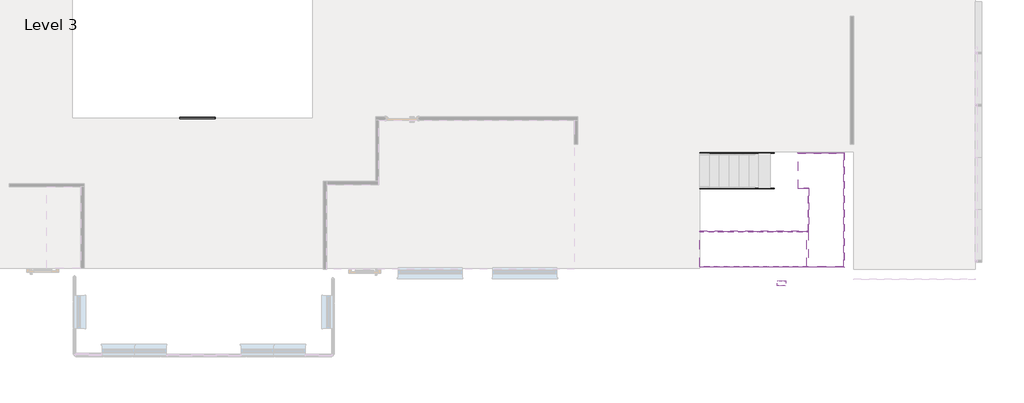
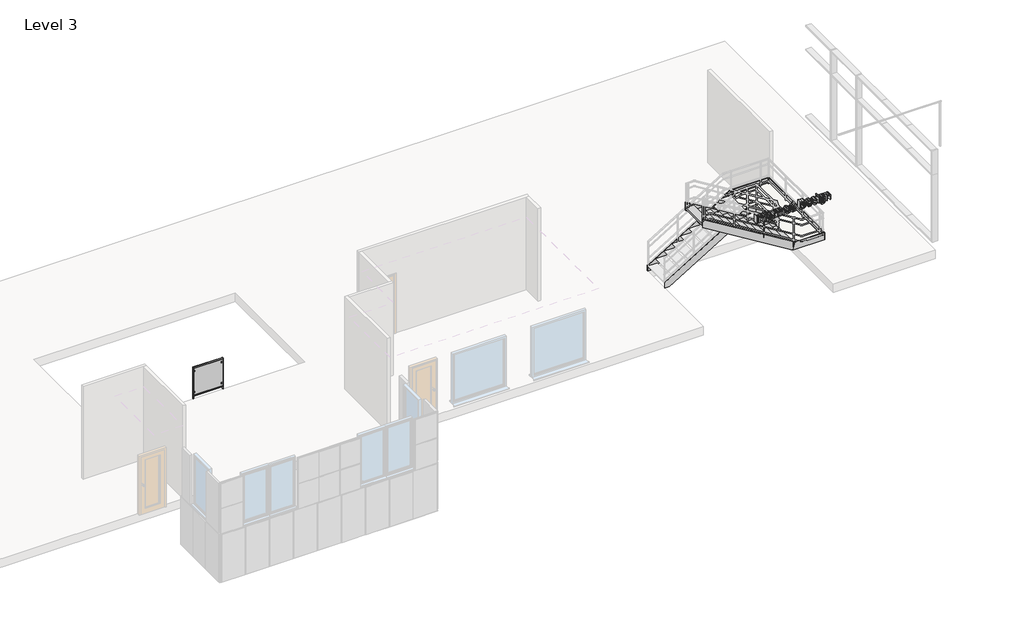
# One storey, part 7 of 7: 9 members, 1 proxy, 1 railing, 1 slab, 1 stair flight.
"""IFC4 building model written with IfcOpenShell, lengths in millimetres."""

from ifc_helpers import new_model, si_unit, point, frame, origin, place, context, project, spatial, polyline, ellipse_curve, trimmed, outline, extrude, faceted_brep, transform, mapped, element, save
from ifc_brep_helpers import plane_surface, extruded_surface, advanced_brep
from components import non_monolithic_landing_bf5c9b89, concrete_steps_w_40mm_tread_40mm_nosing_01273eb4

model = new_model("IFC4")

# Units and contexts
model_context = context("Model", 3, world=origin())
ifc_project = project(units=[si_unit("LENGTHUNIT", "METRE", prefix="MILLI")], contexts=[model_context])

# Site, building, storey
site = spatial("IfcSite", under=ifc_project)
building = spatial("IfcBuilding", under=site)
storey = spatial("IfcBuildingStorey", under=building, Name="Level 3", Elevation=11000.0)

# Proxy
placement = place(None, origin())
element("IfcBuildingElementProxy", 1, Name="250", ObjectType="250", at=placement, inside=storey, context=model_context, shape_type="SweptSolid", body=[
    extrude(outline(polyline([(36823.579935, -3760.0053409), (36792.187338, -3760.0053409), (36792.187338, -3610.0053409), (36823.579935, -3610.0053409), (36823.579935, -3760.0053409)])), frame((0.0, 0.0, 14434.5245182), z_axis=(0.0, 0.0, 1.0), x_axis=(1.0, 0.0, 0.0)), (0.0, 0.0, 1.0), 251.1407754),
    extrude(outline(polyline([(14434.5245182, 36882.4410542), (14434.5245182, 36913.8336511), (14532.3811289, 36913.8336511), (14561.3058507, 36917.4128363), (14579.1634559, 36928.1503921), (14588.4064911, 36943.8236979), (14591.4875028, 36962.2101335), (14585.9999297, 36983.761887), (14579.5849874, 36991.5410584), (14571.3153067, 36996.5457864), (14543.5402161, 37000.1632926), (14434.5245182, 37000.1632926), (14434.5245182, 37031.5558896), (14547.770859, 37031.5558896), (14578.1211236, 37029.9004206), (14601.2057188, 37020.4887729), (14609.9889014, 37012.0734722), (14616.9020173, 37000.2552631), (14621.3855791, 36986.0841421), (14622.8800997, 36970.6101057), (14621.0253613, 36953.1280467), (14615.4611461, 36937.8379513), (14606.1874542, 36924.7398194), (14593.2042854, 36913.8336511), (14618.9560251, 36913.8336511), (14618.9560251, 36882.4410542), (14434.5245182, 36882.4410542)])), frame((0.0, -3760.0053409, 0.0), z_axis=(0.0, 1.0, 0.0), x_axis=(0.0, 0.0, 1.0)), (0.0, 0.0, 1.0), 150.0),
    extrude(outline(polyline([(14434.5245182, 37082.5688596), (14434.5245182, 37113.9614565), (14587.5634281, 37113.9614565), (14587.5634281, 37149.278128), (14618.9560251, 37149.278128), (14618.9560251, 37113.9614565), (14633.5486775, 37113.9614565), (14645.5201708, 37115.4099918), (14652.9851096, 37119.7555979), (14656.8938558, 37127.5960829), (14658.1967712, 37139.5292551), (14656.7252432, 37157.6167866), (14686.1558029, 37162.2153115), (14689.5893681, 37133.5818296), (14687.7959434, 37115.5862686), (14682.4156692, 37101.943978), (14674.1536528, 37092.1951051), (14663.7150012, 37085.8797975), (14637.5340658, 37082.5688596), (14618.9560251, 37082.5688596), (14618.9560251, 37055.1003372), (14587.5634281, 37055.1003372), (14587.5634281, 37082.5688596), (14434.5245182, 37082.5688596)])), frame((0.0, -3760.0053409, 0.0), z_axis=(0.0, 1.0, 0.0), x_axis=(0.0, 0.0, 1.0)), (0.0, 0.0, 1.0), 150.0),
    extrude(outline(polyline([(14526.7402716, 37168.8985011), (14504.8053077, 37170.3221278), (14485.5988018, 37174.5930078), (14469.1207541, 37181.7111412), (14455.3711645, 37191.676528), (14444.5339741, 37203.9488414), (14436.7931238, 37217.9877548), (14432.1486136, 37233.7932683), (14430.6004435, 37251.3653817), (14433.413208, 37273.5226077), (14441.8515012, 37293.886409), (14455.3788288, 37311.0312428), (14473.458696, 37323.5315664), (14497.6009519, 37331.1651178), (14529.3154456, 37333.7096349), (14550.0490449, 37332.2706798), (14568.4105718, 37327.9538145), (14584.4000262, 37320.7590391), (14598.0174082, 37310.6863534), (14608.8948357, 37298.3450621), (14616.6644268, 37284.3444697), (14621.3261815, 37268.6845762), (14622.8800997, 37251.3653817), (14617.775737, 37221.2297149), (14602.462649, 37196.0604551), (14588.4869652, 37184.1771002), (14571.2080078, 37175.6889896), (14550.6257766, 37170.5961232), (14526.7402716, 37168.8985011)]), holes=[polyline([(14526.8015853, 37200.291098), (14555.1974768, 37203.9239327), (14575.3926655, 37214.8224368), (14587.4637934, 37231.2238424), (14591.4875028, 37251.3653817), (14587.448465, 37271.2999873), (14575.3313518, 37287.6937287), (14555.3660894, 37298.6612107), (14527.7826039, 37302.317038), (14498.7505831, 37298.6842033), (14478.2411619, 37287.7856992), (14466.0550708, 37271.4149504), (14461.9930405, 37251.3653817), (14466.0320782, 37231.2238424), (14478.1491914, 37214.8224368), (14498.3903654, 37203.9239327), (14526.8015853, 37200.291098)])]), frame((0.0, -3760.0053409, 0.0), z_axis=(0.0, 1.0, 0.0), x_axis=(0.0, 0.0, 1.0)), (0.0, 0.0, 1.0), 150.0),
    extrude(outline(polyline([(14434.5245182, 37369.0263065), (14434.5245182, 37400.4189034), (14531.4614239, 37400.4189034), (14568.1269961, 37405.5079377), (14585.2948225, 37416.820309), (14589.9393327, 37425.1972886), (14591.4875028, 37434.5706153), (14585.0495678, 37456.643535), (14613.1925405, 37467.1281718), (14620.4582099, 37451.2479324), (14622.8800997, 37435.6129476), (14616.8100468, 37415.9925745), (14607.4903696, 37406.6422405), (14591.6714438, 37396.4948288), (14618.9560251, 37396.4948288), (14618.9560251, 37369.0263065), (14434.5245182, 37369.0263065)])), frame((0.0, -3760.0053409, 0.0), z_axis=(0.0, 1.0, 0.0), x_axis=(0.0, 0.0, 1.0)), (0.0, 0.0, 1.0), 150.0),
    extrude(outline(polyline([(14434.5245182, 37486.7485449), (14434.5245182, 37518.1411418), (14527.5373493, 37518.1411418), (14564.9999991, 37522.9236078), (14576.4349978, 37529.1776017), (14584.7429995, 37538.3746516), (14589.801377, 37549.5184104), (14591.4875028, 37561.6125309), (14588.958314, 37575.8449656), (14581.3707479, 37585.4328901), (14568.7094759, 37590.8821422), (14550.9591696, 37592.6985595), (14434.5245182, 37592.6985595), (14434.5245182, 37624.0911565), (14538.6351228, 37624.0911565), (14562.5627809, 37627.164504), (14578.9182013, 37636.3845465), (14588.3451774, 37650.2490992), (14591.4875028, 37667.2559772), (14586.5824095, 37685.1902245), (14573.6758828, 37695.736175), (14547.4642907, 37698.6485741), (14434.5245182, 37698.6485741), (14434.5245182, 37730.0411711), (14560.9532972, 37730.0411711), (14588.4294837, 37726.4466574), (14607.7049674, 37715.6631164), (14619.0863166, 37698.2117143), (14622.8800997, 37674.6136171), (14620.5999977, 37658.342503), (14613.7596919, 37643.6808727), (14602.3591821, 37630.6287261), (14586.3984685, 37619.1860632), (14601.765206, 37612.3495894), (14613.284511, 37601.8956094), (14620.4812025, 37587.9007652), (14622.8800997, 37570.4416988), (14620.5271878, 37554.1475921), (14613.468452, 37539.7235522), (14602.5469552, 37527.5834464), (14588.6057605, 37518.1411418), (14618.9560251, 37518.1411418), (14618.9560251, 37486.7485449), (14434.5245182, 37486.7485449)])), frame((0.0, -3760.0053409, 0.0), z_axis=(0.0, 1.0, 0.0), x_axis=(0.0, 0.0, 1.0)), (0.0, 0.0, 1.0), 150.0),
    extrude(outline(polyline([(14489.4615628, 37906.2566468), (14477.0608738, 37897.4581357), (14468.5536027, 37886.023137), (14463.633181, 37871.9516507), (14461.9930405, 37855.2436768), (14465.5339047, 37833.0251371), (14476.1564973, 37814.8073141), (14493.4316226, 37802.1843632), (14516.9300851, 37796.7504395), (14516.9300851, 37937.8331847), (14525.391371, 37938.0171257), (14547.2688534, 37936.5283532), (14566.5481692, 37932.0620359), (14583.2293184, 37924.6181736), (14597.312301, 37914.1967665), (14608.4982129, 37901.4301116), (14616.48815, 37886.9505062), (14621.2821123, 37870.7579503), (14622.8800997, 37852.8524438), (14621.2782802, 37834.3510451), (14616.4728216, 37817.6583996), (14608.463724, 37802.7745072), (14597.2509874, 37789.699368), (14583.1373479, 37779.0499506), (14566.4255418, 37771.4432239), (14547.1155692, 37766.8791879), (14525.20743, 37765.3578426), (14504.0178103, 37766.8638595), (14485.3305545, 37771.3819103), (14469.1456628, 37778.9119949), (14455.463135, 37789.4541133), (14444.5857075, 37802.5637415), (14436.8161164, 37817.7963553), (14432.1543618, 37835.1519549), (14430.6004435, 37854.6305401), (14434.2026214, 37884.3446754), (14445.009155, 37908.2493409), (14462.345594, 37925.9459977), (14485.5374882, 37937.036107), (14489.4615628, 37906.2566468)]), holes=[polyline([(14548.322682, 37796.7504395), (14566.0193388, 37801.9084517), (14579.7459358, 37814.0715501), (14588.552111, 37831.5689375), (14591.4875028, 37852.7298165), (14587.8086828, 37875.753098), (14576.772223, 37894.0552273), (14564.9080286, 37902.3785574), (14548.322682, 37906.6245288), (14548.322682, 37796.7504395)])]), frame((0.0, -3760.0053409, 0.0), z_axis=(0.0, 1.0, 0.0), x_axis=(0.0, 0.0, 1.0)), (0.0, 0.0, 1.0), 150.0),
    extrude(outline(polyline([(14434.5245182, 38083.2078864), (14434.5245182, 38114.6004834), (14685.6652935, 38114.6004834), (14685.6652935, 38083.2078864), (14592.1006394, 38083.2078864), (14604.4936641, 38074.0568218), (14614.3268433, 38062.545181), (14620.7417856, 38048.9642041), (14622.8800997, 38033.6051308), (14619.8910585, 38012.5208939), (14610.9239348, 37993.5366501), (14596.3466108, 37977.8403517), (14576.5269683, 37966.6199508), (14552.813908, 37959.8831118), (14526.5563306, 37957.6374987), (14499.9691923, 37960.074717), (14476.6163498, 37967.3863716), (14457.2795524, 37979.1279386), (14442.7405494, 37994.8548939), (14433.63547, 38013.4329347), (14430.6004435, 38033.7277581), (14432.6966045, 38049.0753351), (14438.9850873, 38062.4378821), (14449.4658921, 38073.8153992), (14464.1390188, 38083.2078864), (14434.5245182, 38083.2078864)]), holes=[polyline([(14526.6789579, 37989.0300957), (14555.7799566, 37992.3410336), (14575.8831748, 38002.2738475), (14587.5864208, 38017.1577399), (14591.4875028, 38035.3219134), (14587.4254724, 38053.9536036), (14575.2393813, 38069.3816548), (14554.3774065, 38079.7513285), (14524.287725, 38083.2078864), (14496.7655532, 38079.8126422), (14477.3521138, 38069.6269094), (14465.8328088, 38054.5820687), (14461.9930405, 38036.6095004), (14466.0167498, 38018.6292679), (14478.0878778, 38003.1935525), (14498.2830664, 37992.5709599), (14526.6789579, 37989.0300957)])]), frame((0.0, -3760.0053409, 0.0), z_axis=(0.0, 1.0, 0.0), x_axis=(0.0, 0.0, 1.0)), (0.0, 0.0, 1.0), 150.0),
    extrude(outline(polyline([(14434.5245182, 38263.7153187), (14434.5245182, 38354.5208579), (14438.8164748, 38394.8959069), (14451.4164331, 38424.9089463), (14474.19446, 38447.8402573), (14490.572873, 38457.3745324), (14510.7680617, 38465.0080838), (14534.4887861, 38470.0204759), (14561.4438065, 38471.6912733), (14593.1736286, 38469.2233983), (14621.163317, 38461.8197731), (14644.9530194, 38449.4497411), (14664.0828831, 38432.0826452), (14675.0733578, 38415.1907303), (14682.0477872, 38395.1718183), (14685.6652935, 38350.3515286), (14685.6652935, 38263.7153187), (14434.5245182, 38263.7153187)]), holes=[polyline([(14465.9171151, 38295.1079157), (14654.2726966, 38295.1079157), (14654.2726966, 38349.7997056), (14653.0157665, 38376.2565524), (14649.244976, 38394.313427), (14638.7603391, 38412.0560691), (14621.4085717, 38426.9016404), (14596.1473414, 38436.9494174), (14561.9343158, 38440.2986764), (14536.1135983, 38438.589558), (14514.4468816, 38433.4622027), (14496.8575237, 38425.2691641), (14483.2688825, 38414.3629958), (14470.4543264, 38391.0638027), (14465.9171151, 38350.6580969), (14465.9171151, 38295.1079157)])]), frame((0.0, -3760.0053409, 0.0), z_axis=(0.0, 1.0, 0.0), x_axis=(0.0, 0.0, 1.0)), (0.0, 0.0, 1.0), 150.0),
    extrude(outline(polyline([(14489.4615628, 38640.0585998), (14477.0608738, 38631.2600888), (14468.5536027, 38619.8250901), (14463.633181, 38605.7536038), (14461.9930405, 38589.0456298), (14465.5339047, 38566.8270901), (14476.1564973, 38548.6092672), (14493.4316226, 38535.9863162), (14516.9300851, 38530.5523926), (14516.9300851, 38671.6351377), (14525.391371, 38671.8190787), (14547.2688534, 38670.3303063), (14566.5481692, 38665.8639889), (14583.2293184, 38658.4201267), (14597.312301, 38647.9987195), (14608.4982129, 38635.2320647), (14616.48815, 38620.7524593), (14621.2821123, 38604.5599033), (14622.8800997, 38586.6543968), (14621.2782802, 38568.1529982), (14616.4728216, 38551.4603526), (14608.463724, 38536.5764602), (14597.2509874, 38523.501321), (14583.1373479, 38512.8519037), (14566.4255418, 38505.245177), (14547.1155692, 38500.681141), (14525.20743, 38499.1597957), (14504.0178103, 38500.6658126), (14485.3305545, 38505.1838633), (14469.1456628, 38512.7139479), (14455.463135, 38523.2560663), (14444.5857075, 38536.3656945), (14436.8161164, 38551.5983084), (14432.1543618, 38568.9539079), (14430.6004435, 38588.4324931), (14434.2026214, 38618.1466285), (14445.009155, 38642.0512939), (14462.345594, 38659.7479508), (14485.5374882, 38670.8380601), (14489.4615628, 38640.0585998)]), holes=[polyline([(14548.322682, 38530.5523926), (14566.0193388, 38535.7104047), (14579.7459358, 38547.8735032), (14588.552111, 38565.3708906), (14591.4875028, 38586.5317695), (14587.8086828, 38609.555051), (14576.772223, 38627.8571803), (14564.9080286, 38636.1805104), (14548.322682, 38640.4264818), (14548.322682, 38530.5523926)])]), frame((0.0, -3760.0053409, 0.0), z_axis=(0.0, 1.0, 0.0), x_axis=(0.0, 0.0, 1.0)), (0.0, 0.0, 1.0), 150.0),
    extrude(outline(polyline([(14489.4615628, 38691.4394518), (14463.8631073, 38700.0540218), (14445.4383507, 38715.4744088), (14434.3099203, 38738.5743324), (14430.6004435, 38770.2275124), (14432.5241598, 38790.7982473), (14438.2953086, 38809.1003766), (14447.5919932, 38824.2525163), (14460.0923168, 38835.3732824), (14474.6543125, 38842.2020919), (14490.1360131, 38844.4783618), (14505.111876, 38842.5393171), (14517.4205944, 38836.7221831), (14527.0928252, 38827.4944763), (14534.1592252, 38815.3237137), (14548.9358187, 38769.2464938), (14555.6190082, 38742.2071671), (14562.5474525, 38730.496257), (14571.6831887, 38726.7561233), (14579.1021423, 38729.0094006), (14585.5400772, 38735.7692322), (14590.0006464, 38747.7867107), (14591.4875028, 38765.8129285), (14589.9316685, 38781.6395185), (14585.2641657, 38793.434735), (14577.8222195, 38801.27522), (14567.9430551, 38805.2376156), (14571.8671297, 38836.6302126), (14587.7397049, 38832.4608833), (14600.0407592, 38825.8390074), (14609.4677353, 38815.8448798), (14616.7180763, 38801.5587957), (14621.3395938, 38783.793161), (14622.8800997, 38763.3603819), (14619.0479956, 38736.351712), (14609.7589752, 38716.3941138), (14591.8860416, 38701.0043837), (14568.4948781, 38695.3635264), (14555.2357978, 38697.1186301), (14543.1723341, 38702.3839412), (14532.9559445, 38711.0521607), (14525.2380868, 38723.0159897), (14509.8790135, 38770.2888261), (14500.9272183, 38802.601128), (14494.8265085, 38810.4646057), (14486.8250751, 38813.0857649), (14477.4747411, 38810.4799341), (14469.411994, 38802.6624417), (14463.8477789, 38789.4493467), (14461.9930405, 38770.6567081), (14464.0163914, 38751.6341433), (14470.0864444, 38737.3633875), (14479.9579446, 38727.7831272), (14493.3856374, 38722.8320487), (14489.4615628, 38691.4394518)])), frame((0.0, -3760.0053409, 0.0), z_axis=(0.0, 1.0, 0.0), x_axis=(0.0, 0.0, 1.0)), (0.0, 0.0, 1.0), 150.0),
    extrude(outline(polyline([(38911.1876302, -3760.0053409), (38879.7950333, -3760.0053409), (38879.7950333, -3610.0053409), (38911.1876302, -3610.0053409), (38911.1876302, -3760.0053409)])), frame((0.0, 0.0, 14654.2726966), z_axis=(0.0, 0.0, 1.0), x_axis=(1.0, 0.0, 0.0)), (0.0, 0.0, 1.0), 31.3925969),
    extrude(outline(polyline([(38911.1876302, -3760.0053409), (38879.7950333, -3760.0053409), (38879.7950333, -3610.0053409), (38911.1876302, -3610.0053409), (38911.1876302, -3760.0053409)])), frame((0.0, 0.0, 14434.5245182), z_axis=(0.0, 0.0, 1.0), x_axis=(1.0, 0.0, 0.0)), (0.0, 0.0, 1.0), 184.4315069),
    extrude(outline(polyline([(14418.8282197, 38950.4283764), (14393.038159, 38954.8966098), (14374.6517234, 38969.6502106), (14363.6382562, 38992.6504996), (14359.9671005, 39021.8587971), (14362.5729313, 39046.9284223), (14370.3904237, 39067.6907624), (14382.6914779, 39083.7932639), (14398.7479941, 39094.8833732), (14422.9592279, 39101.3213081), (14459.7244348, 39103.4672864), (14618.9560251, 39103.4672864), (14618.9560251, 39072.0746895), (14595.4115774, 39072.0746895), (14607.4290559, 39061.4635932), (14616.0129691, 39049.495932), (14621.163317, 39036.171706), (14622.8800997, 39021.4909151), (14619.8450732, 38999.992811), (14610.7399938, 38981.4837482), (14596.0630351, 38966.4772284), (14576.3123705, 38955.4867538), (14553.0055132, 38948.7499148), (14527.6599766, 38946.5043018), (14492.0673936, 38951.5090298), (14461.9317268, 38966.5232137), (14449.941073, 38977.5615896), (14441.3763203, 38990.6578054), (14436.2374687, 39005.8118611), (14434.5245182, 39023.0237568), (14440.4106301, 39049.9711129), (14458.0689658, 39072.0746895), (14421.4647073, 39069.9287112), (14408.7727785, 39064.1039129), (14399.2691603, 39054.6002947), (14393.3370631, 39040.8966904), (14391.3596974, 39022.4719338), (14393.1071369, 39005.1968084), (14398.3494553, 38991.9990419), (14405.0939585, 38985.2851954), (14414.9041451, 38981.8209733), (14418.8282197, 38950.4283764)]), holes=[polyline([(14529.8059549, 38977.8968987), (14556.6383479, 38981.292143), (14575.9444885, 38991.4778757), (14587.6017492, 39006.507388), (14591.4875028, 39024.4339711), (14587.5404355, 39042.6901151), (14575.6992338, 39058.0951737), (14556.1018534, 39068.5798105), (14528.8862499, 39072.0746895), (14500.6666352, 39068.6794452), (14481.1229042, 39058.4937125), (14469.7185624, 39043.310916), (14465.9171151, 39024.9244804), (14469.741555, 39006.4000891), (14481.2148747, 38991.2939347), (14501.0115246, 38981.2461577), (14529.8059549, 38977.8968987)])]), frame((0.0, -3760.0053409, 0.0), z_axis=(0.0, 1.0, 0.0), x_axis=(0.0, 0.0, 1.0)), (0.0, 0.0, 1.0), 150.0),
    extrude(outline(polyline([(14434.5245182, 39150.5561818), (14434.5245182, 39181.9487787), (14532.3811289, 39181.9487787), (14561.3058507, 39185.5279639), (14579.1634559, 39196.2655197), (14588.4064911, 39211.9388255), (14591.4875028, 39230.3252611), (14585.9999297, 39251.8770146), (14579.5849874, 39259.656186), (14571.3153067, 39264.6609139), (14543.5402161, 39268.2784202), (14434.5245182, 39268.2784202), (14434.5245182, 39299.6710172), (14547.770859, 39299.6710172), (14578.1211236, 39298.0155482), (14601.2057188, 39288.6039005), (14609.9889014, 39280.1885998), (14616.9020173, 39268.3703907), (14621.3855791, 39254.1992697), (14622.8800997, 39238.7252333), (14621.0253613, 39221.2431743), (14615.4611461, 39205.9530789), (14606.1874542, 39192.854947), (14593.2042854, 39181.9487787), (14618.9560251, 39181.9487787), (14618.9560251, 39150.5561818), (14434.5245182, 39150.5561818)])), frame((0.0, -3760.0053409, 0.0), z_axis=(0.0, 1.0, 0.0), x_axis=(0.0, 0.0, 1.0)), (0.0, 0.0, 1.0), 150.0),
])

# Members
element("IfcMember", 2, ObjectType="Stringer-Paint-15mm_Width", at=placement, inside=storey, context=model_context, shape_type="SweptSolid", body=[
    extrude(outline(polyline([(11199.3311057, 35285.7942367), (11000.0, 35285.7942367), (11000.0, 35439.0061781), (12649.2857143, 38132.8395114), (12899.2857143, 38062.386764), (11199.3311057, 35285.7942367)])), frame((0.0, 1.8025492, 0.0), z_axis=(0.0, 1.0, 0.0), x_axis=(0.0, 0.0, 1.0)), (0.0, 0.0, 1.0), 15.0),
])
element("IfcMember", 3, ObjectType="Stringer-Paint-15mm_Width", at=placement, inside=storey, context=model_context, shape_type="SweptSolid", body=[
    extrude(outline(polyline([(11199.3311057, 35285.7942367), (11000.0, 35285.7942367), (11000.0, 35439.0061781), (12649.2857143, 38132.8395114), (12899.2857143, 38062.386764), (11199.3311057, 35285.7942367)])), frame((0.0, -1013.1974508, 0.0), z_axis=(0.0, 1.0, 0.0), x_axis=(0.0, 0.0, 1.0)), (0.0, 0.0, 1.0), 15.0),
])
element("IfcMember", 4, ObjectType="Stringer-Paint-15mm_Width", at=placement, inside=storey, context=model_context, shape_type="SweptSolid", body=[
    extrude(outline(polyline([(12649.2857143, 38318.7489619), (12899.2857143, 38389.2017093), (14799.3311057, 35285.7942367), (14506.1967706, 35285.7942367), (12649.2857143, 38318.7489619)])), frame((0.0, -3235.0053409, 0.0), z_axis=(0.0, 1.0, 0.0), x_axis=(0.0, 0.0, 1.0)), (0.0, 0.0, 1.0), 15.0),
])
element("IfcMember", 5, ObjectType="Stringer-Paint-15mm_Width", at=placement, inside=storey, context=model_context, shape_type="SweptSolid", body=[
    extrude(outline(polyline([(12649.2857143, 38361.9511446), (12915.9697335, 38361.9511446), (14799.3311057, 35285.7942367), (14506.1967706, 35285.7942367), (12649.2857143, 38318.7489619), (12649.2857143, 38361.9511446)])), frame((0.0, -2220.0053409, 0.0), z_axis=(0.0, 1.0, 0.0), x_axis=(0.0, 0.0, 1.0)), (0.0, 0.0, 1.0), 15.0),
])
element("IfcMember", 6, ObjectType="Stringer-Paint-15mm_Width", at=placement, inside=storey, context=model_context, shape_type="Brep", body=[
    faceted_brep([(38389.2017093, -3220.0053409, 12899.2857143), (38389.2017093, -3235.0053409, 12899.2857143), (39391.9511446, -3235.0053409, 12899.2857143), (39376.9511446, -3220.0053409, 12899.2857143), (38318.7489619, -3220.0053409, 12649.2857143), (39376.9511446, -3220.0053409, 12649.2857143), (38318.7489619, -3235.0053409, 12649.2857143), (39391.9511446, -3235.0053409, 12649.2857143)], [[[0, 1, 2, 3]], [[4, 0, 3, 5]], [[6, 4, 5, 7]], [[1, 6, 7, 2]], [[1, 0, 4, 6]], [[2, 7, 5, 3]]]),
])
element("IfcMember", 7, ObjectType="Stringer-Paint-15mm_Width", at=placement, inside=storey, context=model_context, shape_type="SweptSolid", body=[
    extrude(outline(polyline([(39391.9511446, -3235.0053409), (39376.9511446, -3220.0053409), (39376.9511446, 1.8025492), (39391.9511446, 16.8025492), (39391.9511446, -3235.0053409)])), frame((0.0, 0.0, 12649.2857143), z_axis=(0.0, 0.0, 1.0), x_axis=(1.0, 0.0, 0.0)), (0.0, 0.0, 1.0), 250.0),
])
element("IfcMember", 8, ObjectType="Stringer-Paint-15mm_Width", at=placement, inside=storey, context=model_context, shape_type="Brep", body=[
    faceted_brep([(39376.9511446, 1.8025492, 12899.2857143), (39391.9511446, 16.8025492, 12899.2857143), (38062.386764, 16.8025492, 12899.2857143), (38062.386764, 1.8025492, 12899.2857143), (39376.9511446, 1.8025492, 12649.2857143), (38132.8395114, 1.8025492, 12649.2857143), (39391.9511446, 16.8025492, 12649.2857143), (38132.8395114, 16.8025492, 12649.2857143)], [[[0, 1, 2, 3]], [[4, 0, 3, 5]], [[6, 4, 5, 7]], [[1, 6, 7, 2]], [[1, 0, 4, 6]], [[2, 7, 5, 3]]]),
])
element("IfcMember", 9, ObjectType="Stringer-Paint-15mm_Width", at=placement, inside=storey, context=model_context, shape_type="Brep", body=[
    faceted_brep([(38062.386764, -998.1974508, 12899.2857143), (38062.386764, -1013.1974508, 12899.2857143), (38361.9511446, -1013.1974508, 12899.2857143), (38376.9511446, -998.1974508, 12899.2857143), (38132.8395114, -998.1974508, 12649.2857143), (38376.9511446, -998.1974508, 12649.2857143), (38132.8395114, -1013.1974508, 12649.2857143), (38361.9511446, -1013.1974508, 12649.2857143)], [[[0, 1, 2, 3]], [[4, 0, 3, 5]], [[6, 4, 5, 7]], [[1, 6, 7, 2]], [[1, 0, 4, 6]], [[2, 7, 5, 3]]]),
])
element("IfcMember", 10, ObjectType="Stringer-Paint-15mm_Width", at=placement, inside=storey, context=model_context, shape_type="SweptSolid", body=[
    extrude(outline(polyline([(38361.9511446, -1013.1974508), (38376.9511446, -998.1974508), (38376.9511446, -2220.0053409), (38361.9511446, -2220.0053409), (38361.9511446, -1013.1974508)])), frame((0.0, 0.0, 12649.2857143), z_axis=(0.0, 0.0, 1.0), x_axis=(1.0, 0.0, 0.0)), (0.0, 0.0, 1.0), 250.0),
])

# Railing
element("IfcRailing", 11, ObjectType="Commercial - Glass w Fixings", at=placement, inside=storey, context=model_context, shape_type="SolidModel", body=[
    advanced_brep(
    [(20543.2942367, 999.3527269, 12117.5), (20543.2942367, 999.3527269, 12082.5), (21543.2942367, 999.3527269, 12117.5), (21543.2942367, 999.3527269, 12082.5)],
    [
        (0, 1, ellipse_curve(frame((20543.2942367, 999.3527269, 12100.0), z_axis=(-1.0, 0.0, 0.0), x_axis=(0.0, 0.0, -1.0)), 17.5, 25.0)),
        (1, 0, ellipse_curve(frame((20543.2942367, 999.3527269, 12100.0), z_axis=(-1.0, 0.0, 0.0), x_axis=(0.0, 0.0, -1.0)), 17.5, 25.0)),
        (2, 3, ellipse_curve(frame((21543.2942367, 999.3527269, 12100.0), z_axis=(1.0, 0.0, 0.0), x_axis=(0.0, 0.0, -1.0)), 17.5, 25.0)),
        (3, 2, ellipse_curve(frame((21543.2942367, 999.3527269, 12100.0), z_axis=(1.0, 0.0, 0.0), x_axis=(0.0, 0.0, -1.0)), 17.5, 25.0)),
        (0, 2),
        (3, 1),
    ],
    [
        plane_surface(frame((20543.2942367, 999.3527269, 12100.0), z_axis=(-1.0, 0.0, 0.0), x_axis=(0.0, 1.0, 0.0))),
        plane_surface(frame((21543.2942367, 999.3527269, 12100.0), z_axis=(1.0, 0.0, 0.0), x_axis=(0.0, 1.0, 0.0))),
        extruded_surface(trimmed(ellipse_curve(frame((21543.2942367, 999.3527269, 12100.0), z_axis=(-1.0, 0.0, 0.0), x_axis=(0.0, 0.0, -1.0)), 17.5, 25.0), [point((21543.2942367, 999.3527269, 12117.5))], [point((21543.2942367, 999.3527269, 12082.5))], True, "CARTESIAN"), (-1000.0, 0.0, 0.0), 1000.0),
        extruded_surface(trimmed(ellipse_curve(frame((21543.2942367, 999.3527269, 12100.0), z_axis=(-1.0, 0.0, 0.0), x_axis=(0.0, 0.0, -1.0)), 17.5, 25.0), [point((21543.2942367, 999.3527269, 12082.5))], [point((21543.2942367, 999.3527269, 12117.5))], True, "CARTESIAN"), (-1000.0, 0.0, 0.0), 1000.0),
    ],
    [
        (0, [[1, 2]]),
        (1, [[3, 4]]),
        (2, [[-1, 5, -4, 6]]),
        (3, [[-2, -6, -3, -5]]),
    ],
),
    extrude(outline(polyline([(20543.2942367, 981.8527269), (20543.2942367, 1016.8527269), (21543.2942367, 1016.8527269), (21543.2942367, 981.8527269), (20543.2942367, 981.8527269)])), frame((0.0, 0.0, 11094.0), z_axis=(0.0, 0.0, 1.0), x_axis=(1.0, 0.0, 0.0)), (0.0, 0.0, 1.0), 6.0),
    extrude(outline(polyline([(21483.2942367, 1005.3527269), (21543.2942367, 1005.3527269), (21543.2942367, 993.3527269), (21483.2942367, 993.3527269), (21483.2942367, 1005.3527269)])), frame((0.0, 0.0, 11200.0), z_axis=(0.0, 0.0, 1.0), x_axis=(1.0, 0.0, 0.0)), (0.0, 0.0, 1.0), 50.0),
    extrude(outline(polyline([(21483.2942367, 1005.3527269), (21543.2942367, 1005.3527269), (21543.2942367, 993.3527269), (21483.2942367, 993.3527269), (21483.2942367, 1005.3527269)])), frame((0.0, 0.0, 11950.0), z_axis=(0.0, 0.0, 1.0), x_axis=(1.0, 0.0, 0.0)), (0.0, 0.0, 1.0), 50.0),
    extrude(outline(polyline([(20543.2942367, 1005.3527269), (20593.2942367, 1005.3527269), (20593.2942367, 993.3527269), (20543.2942367, 993.3527269), (20543.2942367, 1005.3527269)])), frame((0.0, 0.0, 11200.0), z_axis=(0.0, 0.0, 1.0), x_axis=(1.0, 0.0, 0.0)), (0.0, 0.0, 1.0), 50.0),
    extrude(outline(polyline([(20543.2942367, 1005.3527269), (20593.2942367, 1005.3527269), (20593.2942367, 993.3527269), (20543.2942367, 993.3527269), (20543.2942367, 1005.3527269)])), frame((0.0, 0.0, 11950.0), z_axis=(0.0, 0.0, 1.0), x_axis=(1.0, 0.0, 0.0)), (0.0, 0.0, 1.0), 50.0),
    extrude(outline(polyline([(20553.2942367, 1005.3527269), (21533.2942367, 1005.3527269), (21533.2942367, 993.3527269), (20553.2942367, 993.3527269), (20553.2942367, 1005.3527269)])), frame((0.0, 0.0, 11125.0), z_axis=(0.0, 0.0, 1.0), x_axis=(1.0, 0.0, 0.0)), (0.0, 0.0, 1.0), 950.0),
    extrude(outline(polyline([(21539.2942367, 981.8527269), (21539.2942367, 1016.8527269), (21547.2942367, 1016.8527269), (21547.2942367, 981.8527269), (21539.2942367, 981.8527269)])), frame((0.0, 0.0, 11000.0), z_axis=(0.0, 0.0, 1.0), x_axis=(1.0, 0.0, 0.0)), (0.0, 0.0, 1.0), 1082.5),
    extrude(outline(polyline([(20539.2942367, 981.8527269), (20539.2942367, 1016.8527269), (20547.2942367, 1016.8527269), (20547.2942367, 981.8527269), (20539.2942367, 981.8527269)])), frame((0.0, 0.0, 11000.0), z_axis=(0.0, 0.0, 1.0), x_axis=(1.0, 0.0, 0.0)), (0.0, 0.0, 1.0), 1082.5),
])

# Slab
non_monolithic_landing_shape = non_monolithic_landing_bf5c9b89(model_context)
element("IfcSlab", 12, ObjectType="Non-Monolithic_Landing", at=placement, inside=storey, context=model_context, shape_type="MappedRepresentation", body=[
    mapped(non_monolithic_landing_shape, transform((0.0, 0.0, 0.0), x_axis=(1.0, 0.0, 0.0), y_axis=(0.0, 1.0, 0.0), z_axis=(0.0, 0.0, 1.0))),
])

# Stair flight
concrete_steps_w_40mm_tread_40mm_nosing_shape = concrete_steps_w_40mm_tread_40mm_nosing_01273eb4(model_context)
element("IfcStairFlight", 13, ObjectType="Concrete_Steps_w- 40mm_Tread-40mm_Nosing", at=placement, inside=storey, context=model_context, shape_type="MappedRepresentation", body=[
    mapped(concrete_steps_w_40mm_tread_40mm_nosing_shape, transform((0.0, 0.0, 0.0), x_axis=(1.0, 0.0, 0.0), y_axis=(0.0, 1.0, 0.0), z_axis=(0.0, 0.0, 1.0))),
])

save(model, "model.ifc")
